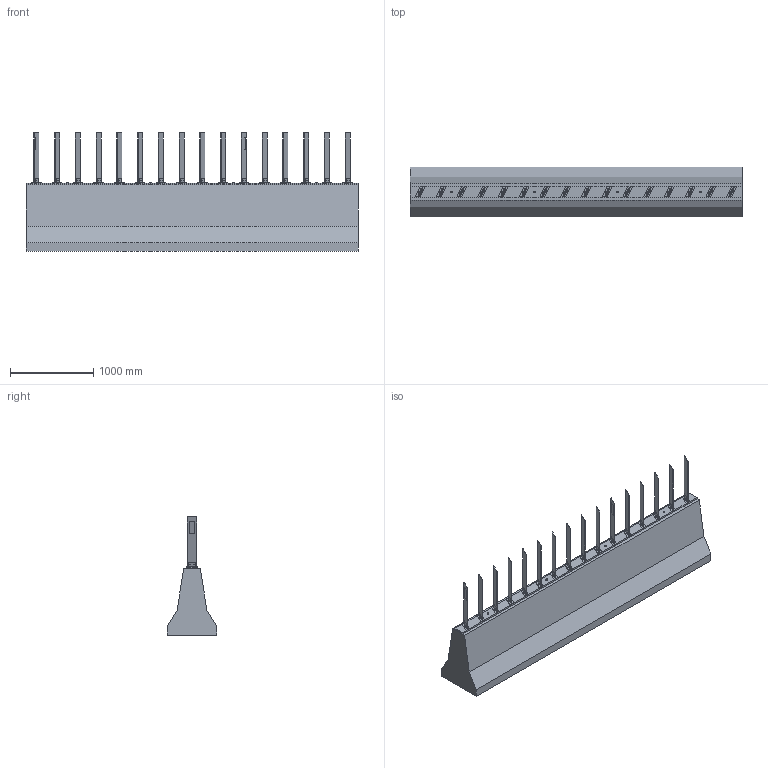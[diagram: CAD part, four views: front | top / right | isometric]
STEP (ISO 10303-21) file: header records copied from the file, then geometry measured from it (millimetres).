
FILE_DESCRIPTION(('FreeCAD Model'),'2;1');
FILE_NAME('Open CASCADE Shape Model','2026-09-23T23:05:32',('Author'),( ''),'Open CASCADE STEP processor 7.8','FreeCAD','Unknown');
FILE_SCHEMA(('AUTOMOTIVE_DESIGN { 1 0 10303 214 1 1 1 1 }'));
Length unit declared in the file: millimetre
Products named in the file (107): AG600; anchor_00; anchor_01; anchor_02; anchor_03; blade_00; base_screw_00_0; base_screw_00_1; base_00; blade_bolt_00_0; blade_bolt_00_1; reflector_00_n; reflector_00_p; blade_01; base_screw_01_0; base_screw_01_1; base_01; blade_bolt_01_0; blade_bolt_01_1; blade_02; base_screw_02_0; base_screw_02_1; base_02; blade_bolt_02_0; blade_bolt_02_1; blade_03; base_screw_03_0; base_screw_03_1; base_03; blade_bolt_03_0; blade_bolt_03_1; blade_04; base_screw_04_0; base_screw_04_1; base_04; blade_bolt_04_0; blade_bolt_04_1; blade_05; base_screw_05_0; base_screw_05_1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
Assembly tree (106 placements, depth 2):
  AG600
    anchor_00
    anchor_01
    anchor_02
    anchor_03
    blade_00
    base_screw_00_0
    base_screw_00_1
    base_00
    blade_bolt_00_0
    blade_bolt_00_1
    reflector_00_n
    reflector_00_p
    blade_01
    base_screw_01_0
    base_screw_01_1
    base_01
    blade_bolt_01_0
    blade_bolt_01_1
    blade_02
    base_screw_02_0
    base_screw_02_1
    base_02
    blade_bolt_02_0
    blade_bolt_02_1
    blade_03
    base_screw_03_0
    base_screw_03_1
    base_03
    blade_bolt_03_0
    blade_bolt_03_1
    blade_04
    base_screw_04_0
    base_screw_04_1
    base_04
    blade_bolt_04_0
    blade_bolt_04_1
    blade_05
    base_screw_05_0
    base_screw_05_1
    base_05
    blade_bolt_05_0
    blade_bolt_05_1
    blade_06
    base_screw_06_0
    base_screw_06_1
    base_06
    blade_bolt_06_0
    blade_bolt_06_1
    blade_07
    base_screw_07_0
    base_screw_07_1
    base_07
    blade_bolt_07_0
    blade_bolt_07_1
    blade_08
    base_screw_08_0
    base_screw_08_1
    base_08
    blade_bolt_08_0
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Bounding box: 4000 x 600 x 1424 mm (x, y, z)
Volume: 1200016557.1 mm3; surface area: 15042427.9 mm2
Topology: 106 solids, 106 shells, 996 faces, 1924 edges, 1284 vertices
Faces by surface type: plane 656, cylinder 340
Full cylindrical faces by diameter (mm): 6 x64, 7 x160, 10 x100, 12 x8, 17 x4, 20 x4
Entity records: 27768 total; most frequent: DIRECTION 4814, CARTESIAN_POINT 4311, ORIENTED_EDGE 3848, EDGE_CURVE 1924, AXIS2_PLACEMENT_3D 1787, FACE_BOUND 1468, EDGE_LOOP 1468, VERTEX_POINT 1284
